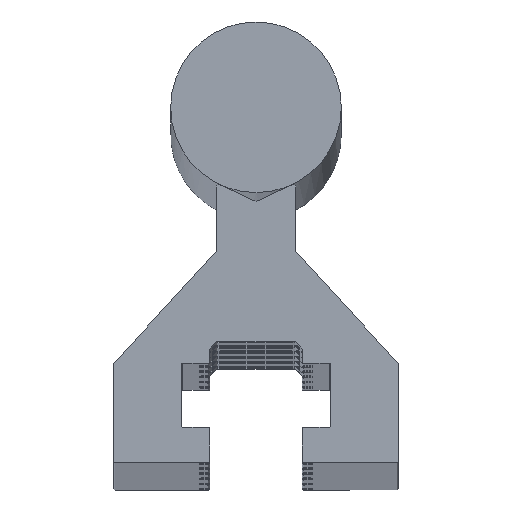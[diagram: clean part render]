
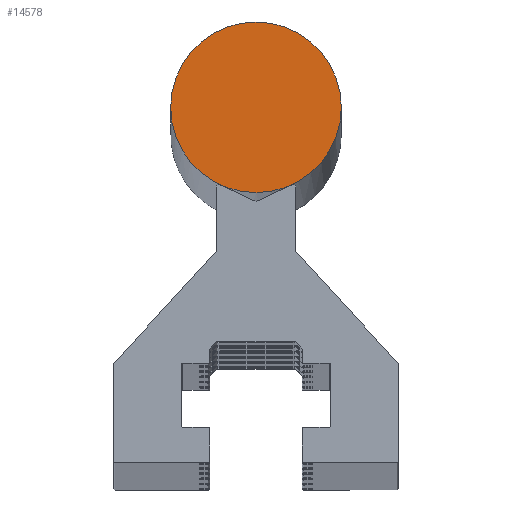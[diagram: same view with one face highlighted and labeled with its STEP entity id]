
A CAD part, top view. The second image highlights one B-rep face of the part: STEP entity #14578.
In plain terms, the highlighted planar face has unit normal (0, 0, 1).
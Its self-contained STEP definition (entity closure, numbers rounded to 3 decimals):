
#2561 = EDGE_LOOP ( 'NONE', ( #20049 ) ) ;
#3727 = FACE_OUTER_BOUND ( 'NONE', #2561, .T. ) ;
#4941 = DIRECTION ( 'NONE',  ( 1., 0., 0. ) ) ;
#4995 = DIRECTION ( 'NONE',  ( 0., 0., 1. ) ) ;
#5166 = CARTESIAN_POINT ( 'NONE',  ( 0., 25., 1. ) ) ;
#5194 = PLANE ( 'NONE',  #5571 ) ;
#5571 = AXIS2_PLACEMENT_3D ( 'NONE', #5166, #4995, #4941 ) ;
#6617 = DIRECTION ( 'NONE',  ( 1., 0., 0. ) ) ;
#6989 = DIRECTION ( 'NONE',  ( 0., 0., 1. ) ) ;
#7052 = CARTESIAN_POINT ( 'NONE',  ( 6., 25., 1. ) ) ;
#7073 = CARTESIAN_POINT ( 'NONE',  ( 0., 25., 1. ) ) ;
#11588 = CIRCLE ( 'NONE', #24166, 6. ) ;
#14578 = ADVANCED_FACE ( 'NONE', ( #3727 ), #5194, .T. ) ;
#20049 = ORIENTED_EDGE ( 'NONE', *, *, #21291, .T. ) ;
#20729 = VERTEX_POINT ( 'NONE', #7052 ) ;
#21291 = EDGE_CURVE ( 'NONE', #20729, #20729, #11588, .T. ) ;
#24166 = AXIS2_PLACEMENT_3D ( 'NONE', #7073, #6989, #6617 ) ;
